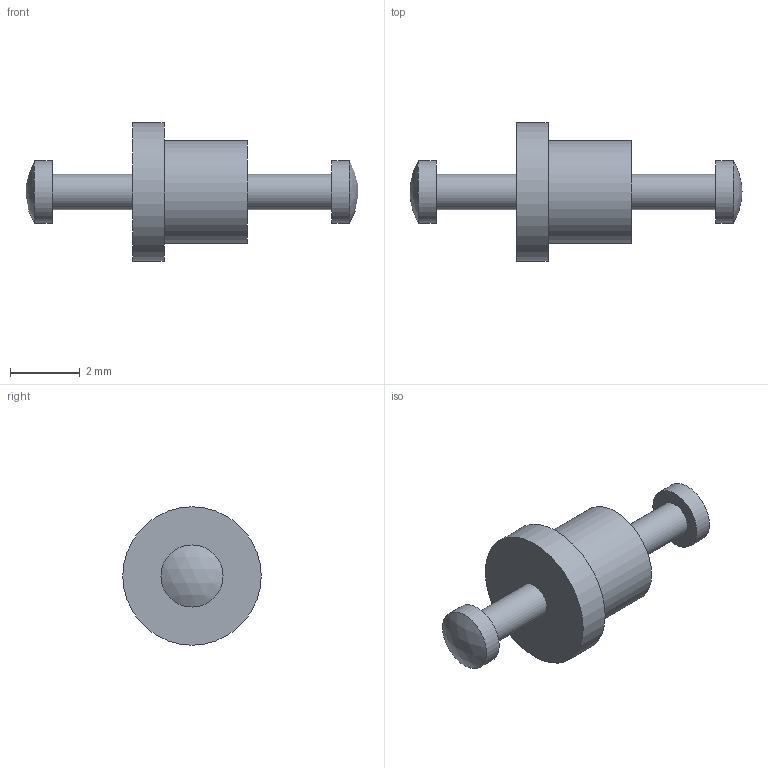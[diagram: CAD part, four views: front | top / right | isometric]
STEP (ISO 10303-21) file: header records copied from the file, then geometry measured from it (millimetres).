
FILE_DESCRIPTION(/* description */ (''),/* implementation_level */ '2;1');
FILE_NAME(/* name */ 'Z:\STEP folder\160-1463-02.ipt.stp',/* time_stamp */ '2016-12-07T10:47:04+00:00',/* author */ ('Paul Karlsons'),/* organization */ (''),/* preprocessor_version */ 'ST-DEVELOPER v15.2',/* originating_system */ 'Autodesk Inventor 2014',/* authorisation */ '');
FILE_SCHEMA (('AUTOMOTIVE_DESIGN { 1 0 10303 214 3 1 1 }'));
Length unit declared in the file: millimetre
Products named in the file (1): 160-1463-02
Bounding box: 9.5 x 3.96 x 3.96 mm (x, y, z)
Volume: 32.8 mm3; surface area: 88.3 mm2
Topology: 1 solids, 1 shells, 13 faces, 19 edges, 12 vertices
Faces by surface type: cylinder 6, plane 4, sphere 2, cone 1
Full cylindrical faces by diameter (mm): 1.016 x2, 1.778 x2, 2.94 x1, 3.96 x1
Entity records: 275 total; most frequent: DIRECTION 52, CARTESIAN_POINT 38, AXIS2_PLACEMENT_3D 26, EDGE_LOOP 24, ORIENTED_EDGE 24, FACE_BOUND 13, ADVANCED_FACE 13, CIRCLE 12
